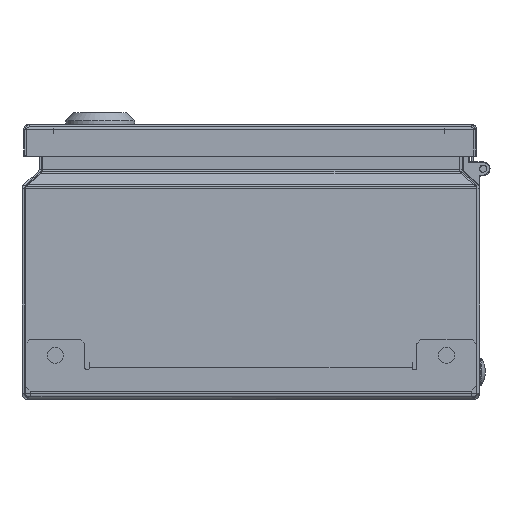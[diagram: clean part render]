
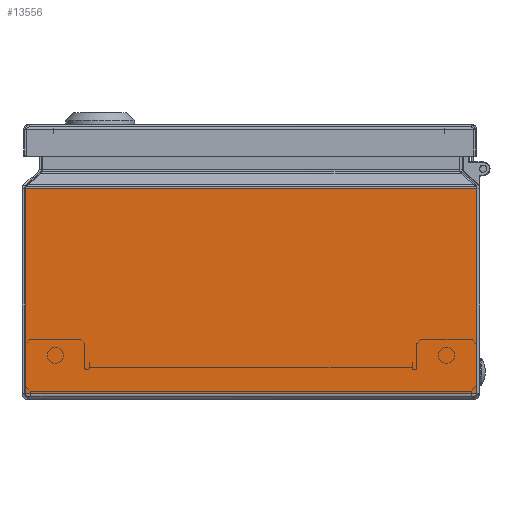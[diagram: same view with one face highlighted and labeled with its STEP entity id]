
A CAD part, left-side view. The second image highlights one B-rep face of the part: STEP entity #13556.
In plain terms, the highlighted planar face has unit normal (-1, 0, 0).
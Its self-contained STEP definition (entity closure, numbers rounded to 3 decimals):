
#1928 = ORIENTED_EDGE ( 'NONE', *, *, #41422, .T. ) ;
#4782 = ORIENTED_EDGE ( 'NONE', *, *, #51547, .F. ) ;
#5087 = VERTEX_POINT ( 'NONE', #12103 ) ;
#8731 = DIRECTION ( 'NONE',  ( 1., 0., 0. ) ) ;
#9491 = VECTOR ( 'NONE', #99639, 1000. ) ;
#11970 = EDGE_CURVE ( 'NONE', #71884, #5087, #13932, .T. ) ;
#12103 = CARTESIAN_POINT ( 'NONE',  ( -300., -98.6, 2.4 ) ) ;
#13556 = ADVANCED_FACE ( 'NONE', ( #98280 ), #31820, .F. ) ;
#13932 = LINE ( 'NONE', #46700, #18753 ) ;
#18753 = VECTOR ( 'NONE', #36501, 1000. ) ;
#19434 = CARTESIAN_POINT ( 'NONE',  ( -300., -3100., 92.119 ) ) ;
#19921 = DIRECTION ( 'NONE',  ( 0., 1., 0. ) ) ;
#26482 = VECTOR ( 'NONE', #44140, 1000. ) ;
#31820 = PLANE ( 'NONE',  #97778 ) ;
#36501 = DIRECTION ( 'NONE',  ( 0., 0., -1. ) ) ;
#41422 = EDGE_CURVE ( 'NONE', #71884, #102745, #85392, .T. ) ;
#44140 = DIRECTION ( 'NONE',  ( 0., 1., 0. ) ) ;
#46700 = CARTESIAN_POINT ( 'NONE',  ( -300., -98.6, 92.119 ) ) ;
#49890 = CARTESIAN_POINT ( 'NONE',  ( -300., -98.6, 92.119 ) ) ;
#50982 = CARTESIAN_POINT ( 'NONE',  ( -300., 98.6, 92.119 ) ) ;
#51547 = EDGE_CURVE ( 'NONE', #5087, #62916, #60754, .T. ) ;
#59457 = CARTESIAN_POINT ( 'NONE',  ( -300., 98.6, 92.119 ) ) ;
#60754 = LINE ( 'NONE', #93405, #95119 ) ;
#62621 = EDGE_CURVE ( 'NONE', #102745, #62916, #101238, .T. ) ;
#62916 = VERTEX_POINT ( 'NONE', #100546 ) ;
#64546 = CARTESIAN_POINT ( 'NONE',  ( -300., -3100., 92.119 ) ) ;
#69038 = EDGE_LOOP ( 'NONE', ( #69581, #4782, #76242, #1928 ) ) ;
#69581 = ORIENTED_EDGE ( 'NONE', *, *, #62621, .T. ) ;
#71884 = VERTEX_POINT ( 'NONE', #49890 ) ;
#76242 = ORIENTED_EDGE ( 'NONE', *, *, #11970, .F. ) ;
#81122 = DIRECTION ( 'NONE',  ( 0., 0., -1. ) ) ;
#85392 = LINE ( 'NONE', #19434, #26482 ) ;
#93405 = CARTESIAN_POINT ( 'NONE',  ( -300., -3100., 2.4 ) ) ;
#95119 = VECTOR ( 'NONE', #19921, 1000. ) ;
#97778 = AXIS2_PLACEMENT_3D ( 'NONE', #64546, #8731, #81122 ) ;
#98280 = FACE_OUTER_BOUND ( 'NONE', #69038, .T. ) ;
#99639 = DIRECTION ( 'NONE',  ( 0., 0., -1. ) ) ;
#100546 = CARTESIAN_POINT ( 'NONE',  ( -300., 98.6, 2.4 ) ) ;
#101238 = LINE ( 'NONE', #59457, #9491 ) ;
#102745 = VERTEX_POINT ( 'NONE', #50982 ) ;
